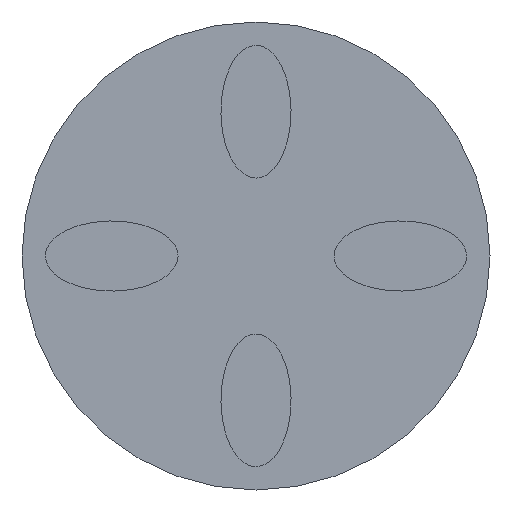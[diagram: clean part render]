
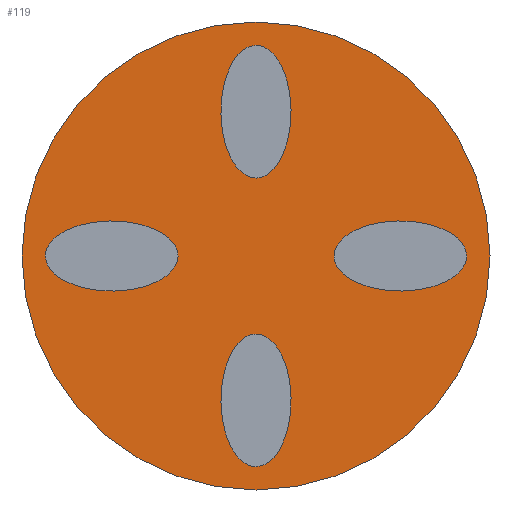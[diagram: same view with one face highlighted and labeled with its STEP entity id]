
A CAD part, front view. The second image highlights one B-rep face of the part: STEP entity #119.
In plain terms, the highlighted planar face has unit normal (0, -1, 0).
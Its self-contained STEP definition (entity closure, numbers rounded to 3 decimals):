
#18 = CIRCLE ( 'NONE', #362, 190.5 ) ;
#21 = CARTESIAN_POINT ( 'NONE',  ( 0., 406.4, 190.5 ) ) ;
#40 = DIRECTION ( 'NONE',  ( 0., 0., 1. ) ) ;
#52 = CARTESIAN_POINT ( 'NONE',  ( 0., 406.4, -190.5 ) ) ;
#77 = ORIENTED_EDGE ( 'NONE', *, *, #498, .F. ) ;
#79 = DIRECTION ( 'NONE',  ( 0., 0., 1. ) ) ;
#119 = ADVANCED_FACE ( 'NONE', ( #204 ), #464, .F. ) ;
#126 = DIRECTION ( 'NONE',  ( 0., 1., 0. ) ) ;
#136 = EDGE_CURVE ( 'NONE', #243, #544, #18, .T. ) ;
#168 = CARTESIAN_POINT ( 'NONE',  ( 0., 406.4, 0. ) ) ;
#204 = FACE_OUTER_BOUND ( 'NONE', #260, .T. ) ;
#227 = DIRECTION ( 'NONE',  ( 0., 1., 0. ) ) ;
#234 = AXIS2_PLACEMENT_3D ( 'NONE', #168, #126, #40 ) ;
#243 = VERTEX_POINT ( 'NONE', #52 ) ;
#260 = EDGE_LOOP ( 'NONE', ( #539, #77 ) ) ;
#326 = AXIS2_PLACEMENT_3D ( 'NONE', #528, #227, #441 ) ;
#362 = AXIS2_PLACEMENT_3D ( 'NONE', #519, #472, #79 ) ;
#441 = DIRECTION ( 'NONE',  ( 0., 0., 1. ) ) ;
#464 = PLANE ( 'NONE',  #234 ) ;
#472 = DIRECTION ( 'NONE',  ( 0., 1., 0. ) ) ;
#498 = EDGE_CURVE ( 'NONE', #544, #243, #535, .T. ) ;
#519 = CARTESIAN_POINT ( 'NONE',  ( 0., 406.4, 0. ) ) ;
#528 = CARTESIAN_POINT ( 'NONE',  ( 0., 406.4, 0. ) ) ;
#535 = CIRCLE ( 'NONE', #326, 190.5 ) ;
#539 = ORIENTED_EDGE ( 'NONE', *, *, #136, .F. ) ;
#544 = VERTEX_POINT ( 'NONE', #21 ) ;
